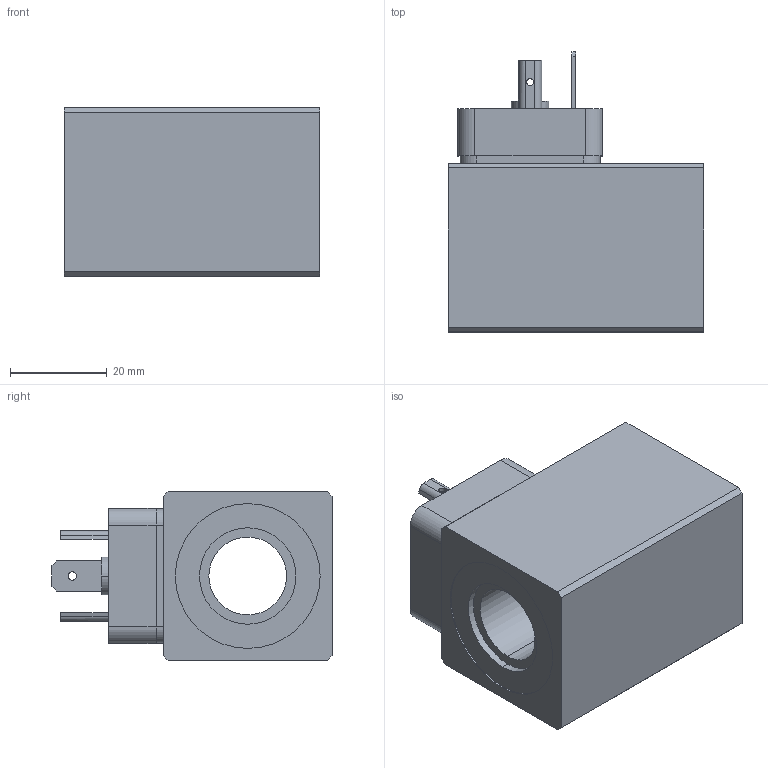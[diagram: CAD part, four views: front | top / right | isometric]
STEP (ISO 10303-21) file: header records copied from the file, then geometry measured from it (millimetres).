
FILE_DESCRIPTION (( 'STEP AP214' ), '1' );
FILE_NAME ('MDS35_16x50.STEP', '2015-07-03T08:33:01', ( '' ), ( '' ), 'SwSTEP 2.0', 'SolidWorks 2014', '' );
FILE_SCHEMA (( 'AUTOMOTIVE_DESIGN' ));
Length unit declared in the file: millimetre
Products named in the file (2): MDS35_16x50
Bounding box: 53 x 58.1 x 35 mm (x, y, z)
Volume: 61969.9 mm3; surface area: 14995.4 mm2
Topology: 1 solids, 1 shells, 227 faces, 598 edges, 393 vertices
Faces by surface type: plane 151, cylinder 72, torus 2, bspline 2
Entity records: 9513 total; most frequent: CARTESIAN_POINT 1289, DIRECTION 1211, ORIENTED_EDGE 1196, EDGE_CURVE 598, LINE 413, VECTOR 413, AXIS2_PLACEMENT_3D 399, VERTEX_POINT 393
